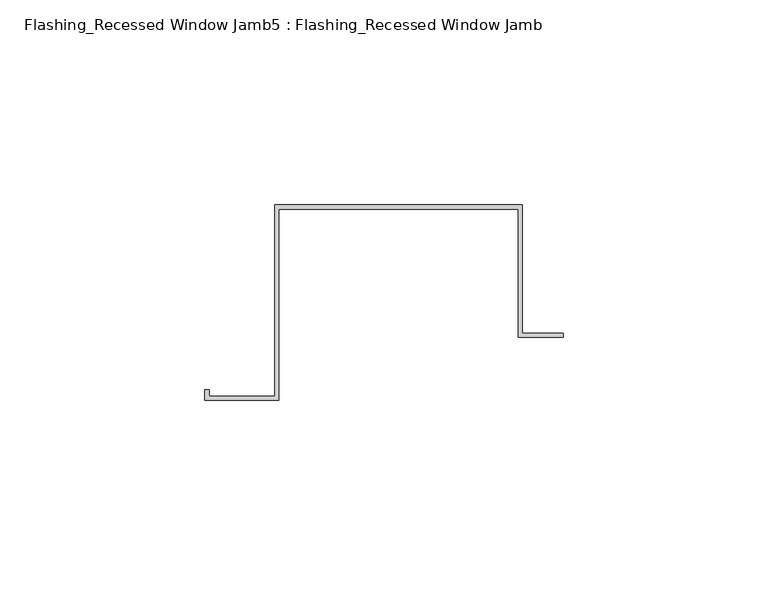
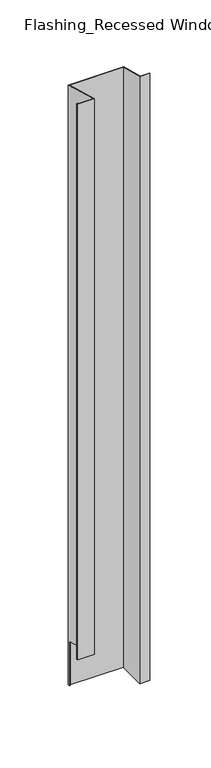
"""IFC4 building model written with IfcOpenShell, lengths in millimetres: proxy geometry, Flashing_Recessed Window Jamb5 : Flashing_Recessed Window Jamb."""

from ifc_helpers import new_model, si_unit, origin, place, context, project, spatial, faceted_brep, source, transform, mapped, element, save


def flashing_recessed_window_jamb5_flashing_recessed_window_jamb_ac1279b0(model_context):
    return source(origin(), model_context, "Body", "Brep", [
        faceted_brep([(13541.2504622, -26571.1394548, -1036.7382524), (13541.2504622, -26539.8073445, -1036.7382524), (13482.8825627, -26539.8073445, -1036.7382524), (13482.8825627, -26540.7391961, -1036.7382524), (13481.8825627, -26540.7391961, -1036.7382524), (13481.8825627, -26538.8073445, -1036.7382524), (13542.2504622, -26538.8073445, -1036.7382524), (13542.2504622, -26570.1394548, -1036.7382524), (13552.2504622, -26570.1394548, -1036.7382524), (13552.2504622, -26571.1394548, -1036.7382524), (13542.2504622, -26538.8073445, -343.2151173), (13542.2504622, -26570.1394548, -334.8197037), (13481.8825627, -26538.8073445, -343.2151173), (13481.8825627, -26540.7391961, -985.662203), (13481.8825627, -26585.4928264, -973.6705039), (13481.8825627, -26585.4928264, -330.7057801), (13465.8513127, -26585.4928264, -330.7057801), (13465.8513127, -26585.4928264, -973.6705039), (13465.8513127, -26583.948348, -331.1196219), (13465.8513127, -26583.948348, -974.0843457), (13464.8513127, -26583.948348, -331.1196219), (13464.8513127, -26583.948348, -974.0843457), (13464.8513127, -26586.4928264, -330.4378309), (13464.8513127, -26586.4928264, -973.4025548), (13482.8825627, -26586.4928264, -330.4378309), (13482.8825627, -26586.4928264, -973.4025548), (13482.8825627, -26539.8073445, -342.9471681), (13482.8825627, -26540.7391961, -985.662203), (13541.2504622, -26539.8073445, -342.9471681), (13541.2504622, -26571.1394548, -334.5517545), (13552.2504622, -26571.1394548, -334.5517545), (13552.2504622, -26570.1394548, -334.8197037)], [[[0, 1, 2, 3, 4, 5, 6, 7, 8, 9]], [[7, 6, 10, 11]], [[6, 5, 12, 10]], [[12, 5, 4, 13, 14, 15]], [[16, 15, 14, 17]], [[18, 16, 17, 19]], [[20, 18, 19, 21]], [[22, 20, 21, 23]], [[24, 22, 23, 25]], [[2, 26, 24, 25, 27, 3]], [[2, 1, 28, 26]], [[1, 0, 29, 28]], [[0, 9, 30, 29]], [[9, 8, 31, 30]], [[8, 7, 11, 31]], [[11, 10, 12, 15, 16, 18, 20, 22, 24, 26, 28, 29, 30, 31]], [[13, 27, 25, 23, 21, 19, 17, 14]], [[27, 13, 4, 3]]]),
    ])


if __name__ == "__main__":
    model = new_model("IFC4")
    model_context = context("Model", 3, world=origin())
    ifc_project = project(units=[si_unit("LENGTHUNIT", "METRE", prefix="MILLI")], contexts=[model_context])
    site = spatial("IfcSite", under=ifc_project)
    building = spatial("IfcBuilding", under=site)
    placement = place(None, origin())
    flashing_recessed_window_jamb5_flashing_recessed_window_jamb_shape = flashing_recessed_window_jamb5_flashing_recessed_window_jamb_ac1279b0(model_context)
    element("IfcBuildingElementProxy", 1, Name="Flashing_Recessed Window Jamb5 : Flashing_Recessed Window Jamb", ObjectType="Flashing_Recessed Window Jamb5 : Flashing_Recessed Window Jamb", at=placement, inside=building, context=model_context, shape_type="MappedRepresentation", body=[
        mapped(flashing_recessed_window_jamb5_flashing_recessed_window_jamb_shape, transform((0.0, 0.0, 0.0), x_axis=(1.0, 0.0, 0.0), y_axis=(0.0, 1.0, 0.0), z_axis=(0.0, 0.0, 1.0))),
    ])
    save(model, "model.ifc")
